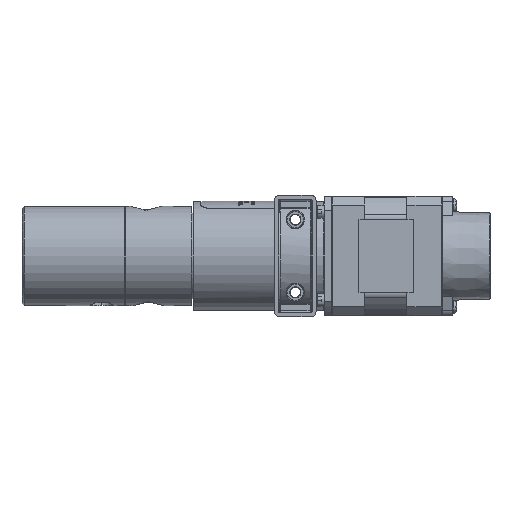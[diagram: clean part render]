
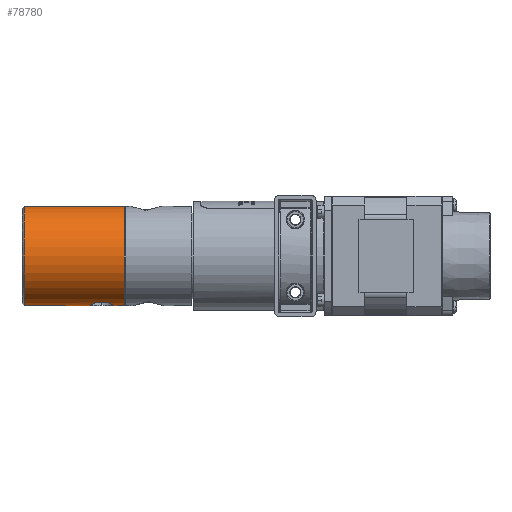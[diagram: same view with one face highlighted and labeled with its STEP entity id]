
A CAD part, left-side view. The second image highlights one B-rep face of the part: STEP entity #78780.
In plain terms, the highlighted cylindrical face has radius 17.374 mm (diameter 34.747 mm), a partial arc.
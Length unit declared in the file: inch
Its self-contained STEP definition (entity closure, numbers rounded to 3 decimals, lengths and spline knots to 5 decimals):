
#224 = CARTESIAN_POINT ( 'NONE',  ( -0.05824, 3.31361, -0.68164 ) ) ;
#542 = CARTESIAN_POINT ( 'NONE',  ( -0.19087, 3.04164, -0.65685 ) ) ;
#1012 = EDGE_CURVE ( 'NONE', #78077, #43296, #78301, .T. ) ;
#1330 = CARTESIAN_POINT ( 'NONE',  ( -0.21328, 3.06403, -0.64991 ) ) ;
#3341 = CARTESIAN_POINT ( 'NONE',  ( -0.04597, 3.01417, -0.68248 ) ) ;
#3563 = CARTESIAN_POINT ( 'NONE',  ( 0., 4.232, -0.684 ) ) ;
#5540 = EDGE_CURVE ( 'NONE', #66852, #78077, #46132, .T. ) ;
#6626 = CARTESIAN_POINT ( 'NONE',  ( -0.24104, 3.11426, -0.64013 ) ) ;
#7411 = CARTESIAN_POINT ( 'NONE',  ( -0.23658, 3.10223, -0.64181 ) ) ;
#9466 = CARTESIAN_POINT ( 'NONE',  ( -0.22442, 3.24443, -0.64615 ) ) ;
#9848 = CARTESIAN_POINT ( 'NONE',  ( -0.244, 3.19699, -0.639 ) ) ;
#10923 = CARTESIAN_POINT ( 'NONE',  ( -0.02169, 3.02376, -0.68376 ) ) ;
#12022 = CARTESIAN_POINT ( 'NONE',  ( -0.08396, 3.31728, -0.67895 ) ) ;
#12791 = DIRECTION ( 'NONE',  ( 0., -1., 0. ) ) ;
#13063 = FACE_OUTER_BOUND ( 'NONE', #22986, .T. ) ;
#13507 = ORIENTED_EDGE ( 'NONE', *, *, #79603, .F. ) ;
#13890 = CARTESIAN_POINT ( 'NONE',  ( -0.20489, 3.05455, -0.65261 ) ) ;
#15531 = CARTESIAN_POINT ( 'NONE',  ( -0.1699, 3.29673, -0.66259 ) ) ;
#15936 = CARTESIAN_POINT ( 'NONE',  ( -0.17542, 3.29343, -0.66115 ) ) ;
#16343 = CARTESIAN_POINT ( 'NONE',  ( -0.21325, 3.26, -0.64992 ) ) ;
#16609 = VERTEX_POINT ( 'NONE', #27616 ) ;
#17317 = CARTESIAN_POINT ( 'NONE',  ( -0.09691, 3.31748, -0.67722 ) ) ;
#20024 = CIRCLE ( 'NONE', #25205, 0.684 ) ;
#21598 = CARTESIAN_POINT ( 'NONE',  ( -0.08388, 3.00673, -0.67896 ) ) ;
#21991 = EDGE_CURVE ( 'NONE', #59447, #66852, #68736, .T. ) ;
#22000 = CARTESIAN_POINT ( 'NONE',  ( -0.03974, 3.01629, -0.68287 ) ) ;
#22312 = AXIS2_PLACEMENT_3D ( 'NONE', #68920, #55575, #43025 ) ;
#22769 = CARTESIAN_POINT ( 'NONE',  ( 0., 4.232, 0. ) ) ;
#22986 = EDGE_LOOP ( 'NONE', ( #13507, #71369, #45044, #32082, #72890, #44958, #76800, #70207 ) ) ;
#23944 = CIRCLE ( 'NONE', #65249, 0.684 ) ;
#24575 = CARTESIAN_POINT ( 'NONE',  ( -0.01058, 3.29343, -0.68394 ) ) ;
#25205 = AXIS2_PLACEMENT_3D ( 'NONE', #22769, #54269, #29219 ) ;
#25264 = CYLINDRICAL_SURFACE ( 'NONE', #22312, 0.684 ) ;
#26080 = CARTESIAN_POINT ( 'NONE',  ( -0.244, 3.12701, -0.639 ) ) ;
#27452 = B_SPLINE_CURVE_WITH_KNOTS ( 'NONE', 3,
 ( #26080, #6626, #7411, #56041, #44651, #32143, #1330, #13890, #63264, #542, #65280, #57994, #28064, #32948, #46236, #64463, #21598, #70946, #64064, #3341, #22000, #10923, #51916, #57593 ),
 .UNSPECIFIED., .F., .F.,
 ( 4, 2, 2, 2, 2, 2, 2, 2, 2, 2, 2, 4 ),
 ( 0., 0.00099, 0.00148, 0.00197, 0.00246, 0.00296, 0.00394, 0.00493, 0.00591, 0.00641, 0.0069, 0.00788 ),
 .UNSPECIFIED. ) ;
#27588 = EDGE_CURVE ( 'NONE', #16609, #54577, #28792, .T. ) ;
#27616 = CARTESIAN_POINT ( 'NONE',  ( 0., 3.038, -0.684 ) ) ;
#28064 = CARTESIAN_POINT ( 'NONE',  ( -0.15892, 3.02113, -0.6654 ) ) ;
#28502 = CARTESIAN_POINT ( 'NONE',  ( -0.21722, 3.25493, -0.6486 ) ) ;
#28792 = LINE ( 'NONE', #52617, #32205 ) ;
#28926 = CARTESIAN_POINT ( 'NONE',  ( -0.22768, 3.23898, -0.645 ) ) ;
#29219 = DIRECTION ( 'NONE',  ( 0., 0., 1. ) ) ;
#30275 = CARTESIAN_POINT ( 'NONE',  ( -0.0458, 3.31021, -0.68257 ) ) ;
#30651 = CARTESIAN_POINT ( 'NONE',  ( -0.15283, 3.30513, -0.66673 ) ) ;
#31052 = CARTESIAN_POINT ( 'NONE',  ( -0.02778, 3.30276, -0.68346 ) ) ;
#32082 = ORIENTED_EDGE ( 'NONE', *, *, #5540, .T. ) ;
#32143 = CARTESIAN_POINT ( 'NONE',  ( -0.21719, 3.06904, -0.64861 ) ) ;
#32205 = VECTOR ( 'NONE', #46971, 39.37008 ) ;
#32948 = CARTESIAN_POINT ( 'NONE',  ( -0.13488, 3.01221, -0.67068 ) ) ;
#33105 = DIRECTION ( 'NONE',  ( 0., -1., 0. ) ) ;
#35363 = CARTESIAN_POINT ( 'NONE',  ( 0., 2.852, 0. ) ) ;
#35378 = CARTESIAN_POINT ( 'NONE',  ( -0.23648, 3.222, -0.64185 ) ) ;
#35647 = VECTOR ( 'NONE', #60858, 39.37008 ) ;
#36268 = CARTESIAN_POINT ( 'NONE',  ( 0., 0., 0.684 ) ) ;
#38615 = EDGE_CURVE ( 'NONE', #43296, #16609, #27452, .T. ) ;
#41032 = EDGE_CURVE ( 'NONE', #52714, #54577, #23944, .T. ) ;
#41433 = CARTESIAN_POINT ( 'NONE',  ( -0.244, 0., -0.639 ) ) ;
#41977 = CARTESIAN_POINT ( 'NONE',  ( -0.12235, 3.31473, -0.67309 ) ) ;
#42433 = EDGE_CURVE ( 'NONE', #80194, #59447, #20024, .T. ) ;
#43025 = DIRECTION ( 'NONE',  ( 0., 0., -1. ) ) ;
#43296 = VERTEX_POINT ( 'NONE', #68209 ) ;
#44651 = CARTESIAN_POINT ( 'NONE',  ( -0.22444, 3.0796, -0.64614 ) ) ;
#44667 = CARTESIAN_POINT ( 'NONE',  ( 0., 2.852, -0.684 ) ) ;
#44958 = ORIENTED_EDGE ( 'NONE', *, *, #38615, .T. ) ;
#45044 = ORIENTED_EDGE ( 'NONE', *, *, #21991, .T. ) ;
#46132 = B_SPLINE_CURVE_WITH_KNOTS ( 'NONE', 3,
 ( #48824, #67049, #24575, #79634, #31052, #30275, #224, #12022, #17317, #41977, #61395, #30651, #65320, #15531, #15936, #53572, #48295, #16343, #28502, #9466, #28926, #35378, #64911, #9848 ),
 .UNSPECIFIED., .F., .F.,
 ( 4, 2, 2, 2, 2, 2, 2, 2, 2, 2, 2, 4 ),
 ( 0.01515, 0.01564, 0.01613, 0.01712, 0.0181, 0.01909, 0.01958, 0.02007, 0.02106, 0.02155, 0.02204, 0.02303 ),
 .UNSPECIFIED. ) ;
#46236 = CARTESIAN_POINT ( 'NONE',  ( -0.12243, 3.00928, -0.67308 ) ) ;
#46971 = DIRECTION ( 'NONE',  ( 0., -1., 0. ) ) ;
#48295 = CARTESIAN_POINT ( 'NONE',  ( -0.20057, 3.27433, -0.65399 ) ) ;
#48824 = CARTESIAN_POINT ( 'NONE',  ( 0., 3.286, -0.684 ) ) ;
#50901 = CARTESIAN_POINT ( 'NONE',  ( 0., 0., -0.684 ) ) ;
#51916 = CARTESIAN_POINT ( 'NONE',  ( -0.01045, 3.03017, -0.684 ) ) ;
#52617 = CARTESIAN_POINT ( 'NONE',  ( 0., 0., -0.684 ) ) ;
#52714 = VERTEX_POINT ( 'NONE', #61322 ) ;
#53572 = CARTESIAN_POINT ( 'NONE',  ( -0.19111, 3.28267, -0.65685 ) ) ;
#54269 = DIRECTION ( 'NONE',  ( 0., -1., 0. ) ) ;
#54355 = DIRECTION ( 'NONE',  ( 0., -1., 0. ) ) ;
#54577 = VERTEX_POINT ( 'NONE', #44667 ) ;
#55575 = DIRECTION ( 'NONE',  ( 0., -1., 0. ) ) ;
#56041 = CARTESIAN_POINT ( 'NONE',  ( -0.22776, 3.08516, -0.64497 ) ) ;
#57593 = CARTESIAN_POINT ( 'NONE',  ( 0., 3.038, -0.684 ) ) ;
#57994 = CARTESIAN_POINT ( 'NONE',  ( -0.17013, 3.02696, -0.66259 ) ) ;
#59447 = VERTEX_POINT ( 'NONE', #3563 ) ;
#59895 = VECTOR ( 'NONE', #12791, 39.37008 ) ;
#60858 = DIRECTION ( 'NONE',  ( 0., -1., 0. ) ) ;
#61322 = CARTESIAN_POINT ( 'NONE',  ( 0., 2.852, 0.684 ) ) ;
#61386 = CARTESIAN_POINT ( 'NONE',  ( 0., 4.232, 0.684 ) ) ;
#61395 = CARTESIAN_POINT ( 'NONE',  ( -0.13501, 3.31174, -0.67065 ) ) ;
#62468 = VECTOR ( 'NONE', #33105, 39.37008 ) ;
#63264 = CARTESIAN_POINT ( 'NONE',  ( -0.20041, 3.05007, -0.654 ) ) ;
#64064 = CARTESIAN_POINT ( 'NONE',  ( -0.05846, 3.01076, -0.68153 ) ) ;
#64463 = CARTESIAN_POINT ( 'NONE',  ( -0.09702, 3.00653, -0.67721 ) ) ;
#64816 = CARTESIAN_POINT ( 'NONE',  ( 0., 3.286, -0.684 ) ) ;
#64911 = CARTESIAN_POINT ( 'NONE',  ( -0.24105, 3.20973, -0.64013 ) ) ;
#65249 = AXIS2_PLACEMENT_3D ( 'NONE', #35363, #54355, #78674 ) ;
#65280 = CARTESIAN_POINT ( 'NONE',  ( -0.18581, 3.03769, -0.6583 ) ) ;
#65320 = CARTESIAN_POINT ( 'NONE',  ( -0.15862, 3.30257, -0.66538 ) ) ;
#66852 = VERTEX_POINT ( 'NONE', #64816 ) ;
#67049 = CARTESIAN_POINT ( 'NONE',  ( -0.00517, 3.28988, -0.684 ) ) ;
#68209 = CARTESIAN_POINT ( 'NONE',  ( -0.244, 3.12701, -0.639 ) ) ;
#68736 = LINE ( 'NONE', #50901, #62468 ) ;
#68920 = CARTESIAN_POINT ( 'NONE',  ( 0., 0., 0. ) ) ;
#70207 = ORIENTED_EDGE ( 'NONE', *, *, #41032, .F. ) ;
#70946 = CARTESIAN_POINT ( 'NONE',  ( -0.06477, 3.00946, -0.68096 ) ) ;
#71369 = ORIENTED_EDGE ( 'NONE', *, *, #42433, .T. ) ;
#72890 = ORIENTED_EDGE ( 'NONE', *, *, #1012, .T. ) ;
#73916 = LINE ( 'NONE', #36268, #59895 ) ;
#76800 = ORIENTED_EDGE ( 'NONE', *, *, #27588, .T. ) ;
#78077 = VERTEX_POINT ( 'NONE', #79210 ) ;
#78301 = LINE ( 'NONE', #41433, #35647 ) ;
#78674 = DIRECTION ( 'NONE',  ( 0., 0., -1. ) ) ;
#78780 = ADVANCED_FACE ( 'NONE', ( #13063 ), #25264, .T. ) ;
#79210 = CARTESIAN_POINT ( 'NONE',  ( -0.244, 3.19699, -0.639 ) ) ;
#79603 = EDGE_CURVE ( 'NONE', #80194, #52714, #73916, .T. ) ;
#79634 = CARTESIAN_POINT ( 'NONE',  ( -0.02186, 3.29986, -0.68367 ) ) ;
#80194 = VERTEX_POINT ( 'NONE', #61386 ) ;
